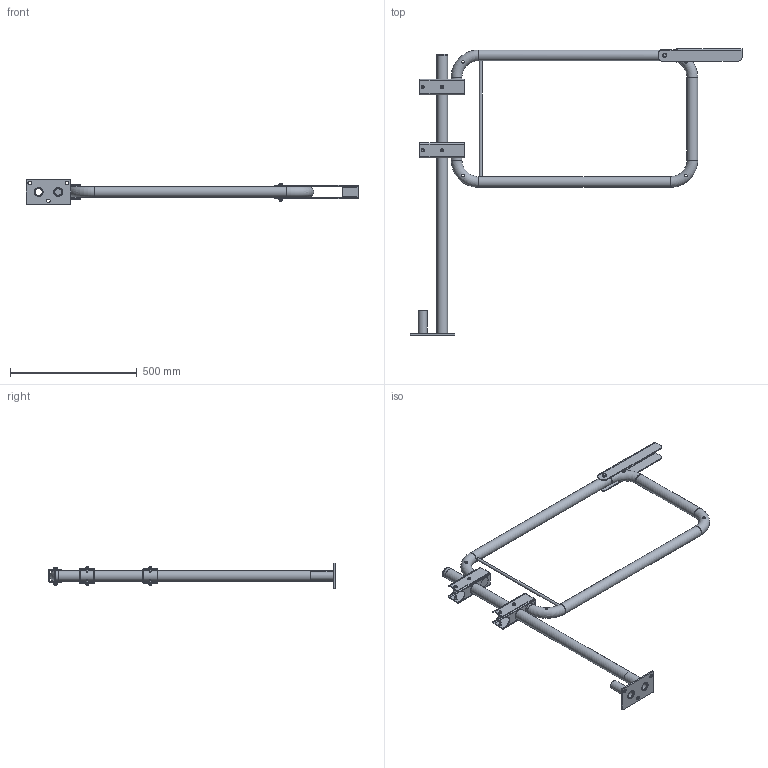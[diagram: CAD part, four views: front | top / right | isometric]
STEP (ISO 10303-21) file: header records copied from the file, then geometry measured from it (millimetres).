
FILE_DESCRIPTION((''),'2;1');
FILE_NAME('S:\Användarkataloger\AndreasA\Mina Inventor filer\Räcken\STEP\grind_ind_topp_1050.stp','2010-09-07T14:02:04',('AndreasA'),(''),'Autodesk Inventor 2011','Autodesk Inventor 2011','');
FILE_SCHEMA(('AUTOMOTIVE_DESIGN { 1 0 10303 214 1 1 1 1 }'));
Length unit declared in the file: millimetre
Products named in the file (16): grind_ind_topp_1050; stolpe_grind_1100; ändavslutare_42,4x2; gångjärn_grind; grindbåge_ind_1050; rör_grindbåge_ind_1050; rund11_grindbåge_ind; låsbygel_grind; fäste_R4; bricka_r4; rör_fäste_r3_r4; Bolted Connection; SS 3576 8; ISO 4014 M8 x 65; ISO 4032 M8; Hex Flange Head Tapping Screw - Type T - Metric M6x1 x 16
Assembly tree (25 placements, depth 3):
  grind_ind_topp_1050
    stolpe_grind_1100
    ändavslutare_42,4x2
    gångjärn_grind  x2
    grindbåge_ind_1050
      rör_grindbåge_ind_1050
      rund11_grindbåge_ind
    låsbygel_grind
    fäste_R4
      bricka_r4
      rör_fäste_r3_r4  x2
    Bolted Connection
      SS 3576 8  x2
      ISO 4014 M8 x 65
      ISO 4032 M8
    Hex Flange Head Tapping Screw - Type T - Metric M6x1 x 16  x8
Bounding box: 1311.2 x 1133 x 100 mm (x, y, z)
Volume: 1492395.6 mm3; surface area: 1233387.5 mm2
Topology: 22 solids, 22 shells, 384 faces, 870 edges, 537 vertices
Faces by surface type: plane 173, cylinder 101, cone 79, torus 25, bspline 6
Full cylindrical faces by diameter (mm): 6 x8, 6.647 x1, 7 x8, 8 x1, 8.4 x2, 10 x12, 11 x1, 11.63 x1, 14.5 x3, 16 x2, 27 x2, 35 x2, 36 x2, 38.4 x7, 42.4 x7, 45 x6
Entity records: 7190 total; most frequent: CARTESIAN_POINT 2343, DIRECTION 950, ORIENTED_EDGE 792, EDGE_CURVE 396, AXIS2_PLACEMENT_3D 391, EDGE_LOOP 332, VERTEX_POINT 286, FACE_OUTER_BOUND 202
